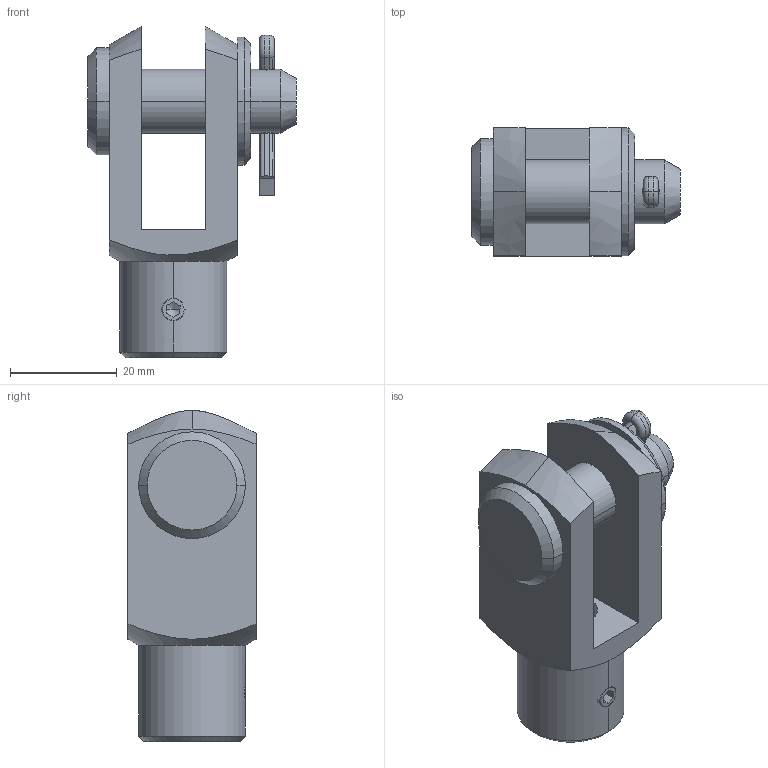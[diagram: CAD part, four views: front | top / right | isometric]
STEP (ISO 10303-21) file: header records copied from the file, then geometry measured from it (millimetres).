
FILE_DESCRIPTION (( 'STEP AP203' ), '1' );
FILE_NAME ('MJ1-GS.STEP', '2024-01-15T15:09:18', ( '' ), ( '' ), 'SwSTEP 2.0', 'SolidWorks 2022', '' );
FILE_SCHEMA (( 'CONFIG_CONTROL_DESIGN' ));
Length unit declared in the file: millimetre
Products named in the file (1): MJ1-GS
Bounding box: 39 x 24 x 62 mm (x, y, z)
Volume: 21493.6 mm3; surface area: 11096.3 mm2
Topology: 5 solids, 5 shells, 113 faces, 278 edges, 173 vertices
Faces by surface type: cylinder 52, plane 37, cone 20, torus 4
Entity records: 3621 total; most frequent: CARTESIAN_POINT 949, ORIENTED_EDGE 552, DIRECTION 534, EDGE_CURVE 276, AXIS2_PLACEMENT_3D 200, VERTEX_POINT 173, VECTOR 134, LINE 134
